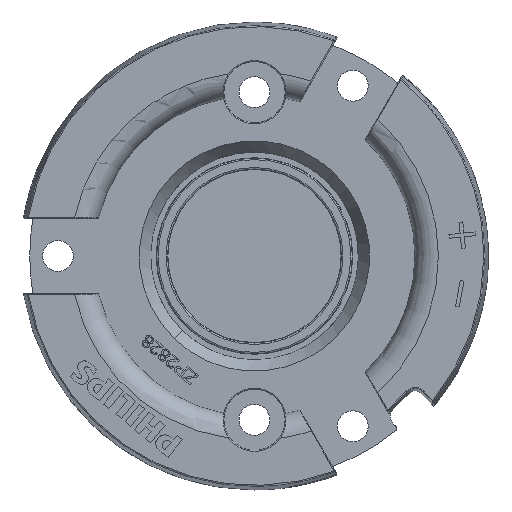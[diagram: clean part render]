
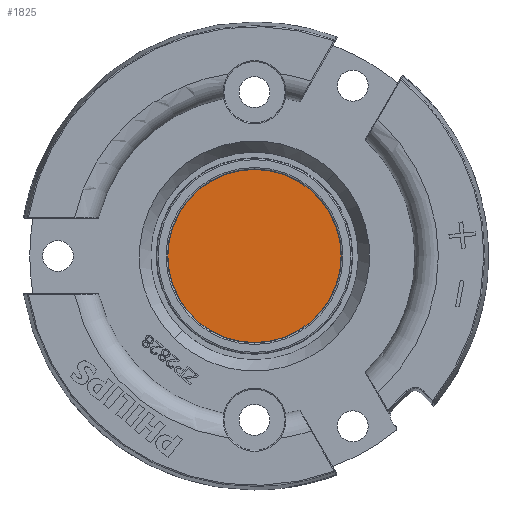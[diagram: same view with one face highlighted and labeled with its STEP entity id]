
A CAD part, front view. The second image highlights one B-rep face of the part: STEP entity #1825.
In plain terms, the highlighted planar face has unit normal (0, -1, 0).
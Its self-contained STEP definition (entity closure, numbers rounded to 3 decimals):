
#1825=ADVANCED_FACE('',(#3104),#2339,.T.);
#2339=PLANE('',#16682);
#3104=FACE_OUTER_BOUND('',#3955,.T.);
#3955=EDGE_LOOP('',(#8579,#8580));
#4300=CIRCLE('',#16676,9.25);
#4301=CIRCLE('',#16678,9.25);
#8579=ORIENTED_EDGE('',*,*,#12536,.T.);
#8580=ORIENTED_EDGE('',*,*,#12538,.T.);
#10314=VERTEX_POINT('',#31467);
#10315=VERTEX_POINT('',#31469);
#12536=EDGE_CURVE('',#10315,#10314,#4300,.T.);
#12538=EDGE_CURVE('',#10314,#10315,#4301,.T.);
#16676=AXIS2_PLACEMENT_3D('',#31468,#20086,#20087);
#16678=AXIS2_PLACEMENT_3D('',#31472,#20091,#20092);
#16682=AXIS2_PLACEMENT_3D('',#31476,#20099,#20100);
#20086=DIRECTION('',(0.,-1.,0.));
#20087=DIRECTION('',(0.,0.,1.));
#20091=DIRECTION('',(0.,-1.,0.));
#20092=DIRECTION('',(0.,0.,-1.));
#20099=DIRECTION('',(0.,-1.,0.));
#20100=DIRECTION('',(0.,0.,1.));
#31467=CARTESIAN_POINT('',(24.777,5.37,-34.253));
#31468=CARTESIAN_POINT('',(24.777,5.37,-25.003));
#31469=CARTESIAN_POINT('',(24.777,5.37,-15.753));
#31472=CARTESIAN_POINT('',(24.777,5.37,-25.003));
#31476=CARTESIAN_POINT('',(24.777,5.37,-25.003));
